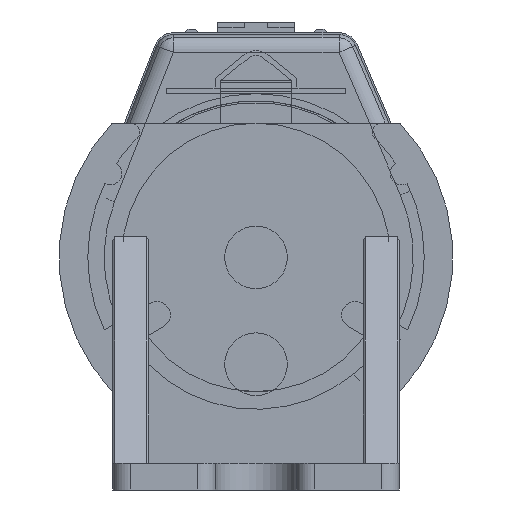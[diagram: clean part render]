
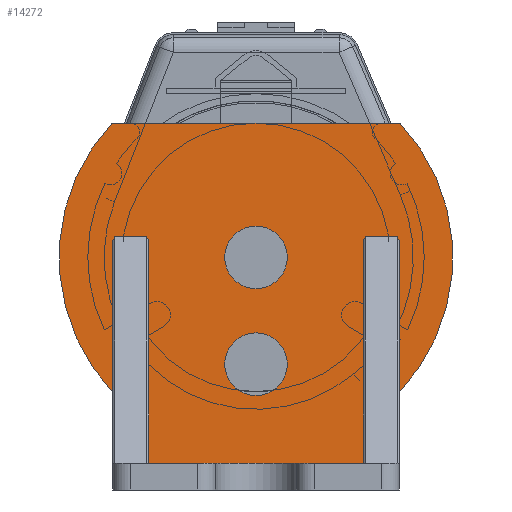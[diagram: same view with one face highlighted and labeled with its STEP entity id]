
A CAD part, left-side view. The second image highlights one B-rep face of the part: STEP entity #14272.
In plain terms, the highlighted planar face has unit normal (-1, 0, 0).
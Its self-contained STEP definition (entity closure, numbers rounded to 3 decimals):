
#3490=DIRECTION('',(0.,0.,-1.));
#3491=VECTOR('',#3490,8.494);
#3492=CARTESIAN_POINT('',(4.,-8.,13.944));
#3493=LINE('',#3492,#3491);
#3640=DIRECTION('',(0.,0.,1.));
#3641=VECTOR('',#3640,8.494);
#3642=CARTESIAN_POINT('',(4.,8.,5.45));
#3643=LINE('',#3642,#3641);
#3648=CARTESIAN_POINT('',(4.,-8.,13.944));
#3649=CARTESIAN_POINT('',(4.,-8.,14.044));
#3650=CARTESIAN_POINT('',(4.,-8.,14.144));
#3651=CARTESIAN_POINT('',(4.,-7.9,14.144));
#3653=DIRECTION('',(0.,1.,0.));
#3654=VECTOR('',#3653,1.8);
#3655=CARTESIAN_POINT('',(4.,-7.9,14.144));
#3656=LINE('',#3655,#3654);
#3657=CARTESIAN_POINT('',(4.,-6.1,14.144));
#3658=CARTESIAN_POINT('',(4.,-6.,14.144));
#3659=CARTESIAN_POINT('',(4.,-6.,14.044));
#3660=CARTESIAN_POINT('',(4.,-6.,13.944));
#3662=DIRECTION('',(0.,0.,-1.));
#3663=VECTOR('',#3662,12.444);
#3664=CARTESIAN_POINT('',(4.,-6.,13.944));
#3665=LINE('',#3664,#3663);
#3666=DIRECTION('',(0.,1.,0.));
#3667=VECTOR('',#3666,12.);
#3668=CARTESIAN_POINT('',(4.,-6.,1.5));
#3669=LINE('',#3668,#3667);
#3670=DIRECTION('',(0.,0.,1.));
#3671=VECTOR('',#3670,12.444);
#3672=CARTESIAN_POINT('',(4.,6.,1.5));
#3673=LINE('',#3672,#3671);
#3674=CARTESIAN_POINT('',(4.,6.,13.944));
#3675=CARTESIAN_POINT('',(4.,6.,14.044));
#3676=CARTESIAN_POINT('',(4.,6.,14.144));
#3677=CARTESIAN_POINT('',(4.,6.1,14.144));
#3679=DIRECTION('',(0.,1.,0.));
#3680=VECTOR('',#3679,1.8);
#3681=CARTESIAN_POINT('',(4.,6.1,14.144));
#3682=LINE('',#3681,#3680);
#3683=CARTESIAN_POINT('',(4.,7.9,14.144));
#3684=CARTESIAN_POINT('',(4.,8.,14.144));
#3685=CARTESIAN_POINT('',(4.,8.,14.044));
#3686=CARTESIAN_POINT('',(4.,8.,13.944));
#3688=CARTESIAN_POINT('',(4.,0.,13.));
#3689=DIRECTION('',(1.,0.,0.));
#3690=DIRECTION('',(0.,0.727,-0.686));
#3691=AXIS2_PLACEMENT_3D('',#3688,#3689,#3690);
#3693=DIRECTION('',(0.,-1.,0.));
#3694=VECTOR('',#3693,16.093);
#3695=CARTESIAN_POINT('',(4.,8.047,20.5));
#3696=LINE('',#3695,#3694);
#3697=CARTESIAN_POINT('',(4.,0.,13.));
#3698=DIRECTION('',(1.,0.,0.));
#3699=DIRECTION('',(0.,-0.732,0.682));
#3700=AXIS2_PLACEMENT_3D('',#3697,#3698,#3699);
#3702=CARTESIAN_POINT('',(4.,0.,7.03));
#3703=DIRECTION('',(-1.,0.,0.));
#3704=DIRECTION('',(0.,0.,1.));
#3705=AXIS2_PLACEMENT_3D('',#3702,#3703,#3704);
#3707=CARTESIAN_POINT('',(4.,0.,7.03));
#3708=DIRECTION('',(-1.,0.,0.));
#3709=DIRECTION('',(0.,0.,-1.));
#3710=AXIS2_PLACEMENT_3D('',#3707,#3708,#3709);
#3712=CARTESIAN_POINT('',(4.,0.,13.));
#3713=DIRECTION('',(-1.,0.,0.));
#3714=DIRECTION('',(0.,0.,1.));
#3715=AXIS2_PLACEMENT_3D('',#3712,#3713,#3714);
#3717=CARTESIAN_POINT('',(4.,0.,13.));
#3718=DIRECTION('',(-1.,0.,0.));
#3719=DIRECTION('',(0.,0.,-1.));
#3720=AXIS2_PLACEMENT_3D('',#3717,#3718,#3719);
#7975=CARTESIAN_POINT('',(4.,0.,8.78));
#7976=VERTEX_POINT('',#7975);
#7977=CARTESIAN_POINT('',(4.,0.,5.28));
#7978=VERTEX_POINT('',#7977);
#8077=CARTESIAN_POINT('',(4.,-8.047,20.5));
#8078=VERTEX_POINT('',#8077);
#8079=CARTESIAN_POINT('',(4.,8.047,20.5));
#8080=VERTEX_POINT('',#8079);
#8081=CARTESIAN_POINT('',(4.,-8.,5.45));
#8082=VERTEX_POINT('',#8081);
#8084=CARTESIAN_POINT('',(4.,-8.,13.944));
#8086=VERTEX_POINT('',#8084);
#8092=CARTESIAN_POINT('',(4.,-7.9,14.144));
#8093=VERTEX_POINT('',#8092);
#8118=CARTESIAN_POINT('',(4.,6.,1.5));
#8119=VERTEX_POINT('',#8118);
#8120=CARTESIAN_POINT('',(4.,-6.,1.5));
#8121=VERTEX_POINT('',#8120);
#8143=CARTESIAN_POINT('',(4.,8.,13.944));
#8144=VERTEX_POINT('',#8143);
#8145=CARTESIAN_POINT('',(4.,8.,5.45));
#8146=VERTEX_POINT('',#8145);
#8147=VERTEX_POINT('',#3683);
#8148=CARTESIAN_POINT('',(4.,-6.1,14.144));
#8149=VERTEX_POINT('',#8148);
#8150=VERTEX_POINT('',#3660);
#8151=CARTESIAN_POINT('',(4.,6.,13.944));
#8152=VERTEX_POINT('',#8151);
#8153=VERTEX_POINT('',#3677);
#8154=CARTESIAN_POINT('',(4.,0.,14.75));
#8155=CARTESIAN_POINT('',(4.,0.,11.25));
#8156=VERTEX_POINT('',#8154);
#8157=VERTEX_POINT('',#8155);
#14232=CARTESIAN_POINT('',(4.,0.,13.));
#14233=DIRECTION('',(1.,0.,0.));
#14234=DIRECTION('',(0.,0.,-1.));
#14235=AXIS2_PLACEMENT_3D('',#14232,#14233,#14234);
#14236=PLANE('',#14235);
#14237=ORIENTED_EDGE('',*,*,#14062,.T.);
#14239=ORIENTED_EDGE('',*,*,#14238,.T.);
#14241=ORIENTED_EDGE('',*,*,#14240,.T.);
#14243=ORIENTED_EDGE('',*,*,#14242,.T.);
#14244=ORIENTED_EDGE('',*,*,#14110,.T.);
#14246=ORIENTED_EDGE('',*,*,#14245,.T.);
#14248=ORIENTED_EDGE('',*,*,#14247,.T.);
#14250=ORIENTED_EDGE('',*,*,#14249,.T.);
#14251=ORIENTED_EDGE('',*,*,#14218,.T.);
#14252=ORIENTED_EDGE('',*,*,#14199,.F.);
#14254=ORIENTED_EDGE('',*,*,#14253,.T.);
#14255=ORIENTED_EDGE('',*,*,#13970,.T.);
#14256=ORIENTED_EDGE('',*,*,#14013,.T.);
#14257=ORIENTED_EDGE('',*,*,#14033,.F.);
#14258=EDGE_LOOP('',(#14237,#14239,#14241,#14243,#14244,#14246,#14248,#14250,
#14251,#14252,#14254,#14255,#14256,#14257));
#14259=FACE_OUTER_BOUND('',#14258,.F.);
#14261=ORIENTED_EDGE('',*,*,#14260,.T.);
#14263=ORIENTED_EDGE('',*,*,#14262,.T.);
#14264=EDGE_LOOP('',(#14261,#14263));
#14265=FACE_BOUND('',#14264,.F.);
#14267=ORIENTED_EDGE('',*,*,#14266,.T.);
#14269=ORIENTED_EDGE('',*,*,#14268,.T.);
#14270=EDGE_LOOP('',(#14267,#14269));
#14271=FACE_BOUND('',#14270,.F.);
#3652=B_SPLINE_CURVE_WITH_KNOTS('',3,(#3648,#3649,#3650,#3651),.UNSPECIFIED.,
.F.,.F.,(4,4),(0.,1.),.UNSPECIFIED.);
#3661=B_SPLINE_CURVE_WITH_KNOTS('',3,(#3657,#3658,#3659,#3660),.UNSPECIFIED.,
.F.,.F.,(4,4),(0.,1.),.UNSPECIFIED.);
#3678=B_SPLINE_CURVE_WITH_KNOTS('',3,(#3674,#3675,#3676,#3677),.UNSPECIFIED.,
.F.,.F.,(4,4),(0.,1.),.UNSPECIFIED.);
#3687=B_SPLINE_CURVE_WITH_KNOTS('',3,(#3683,#3684,#3685,#3686),.UNSPECIFIED.,
.F.,.F.,(4,4),(0.,1.),.UNSPECIFIED.);
#3692=CIRCLE('',#3691,11.);
#3701=CIRCLE('',#3700,11.);
#3706=CIRCLE('',#3705,1.75);
#3711=CIRCLE('',#3710,1.75);
#3716=CIRCLE('',#3715,1.75);
#3721=CIRCLE('',#3720,1.75);
#13970=EDGE_CURVE('',#8080,#8078,#3696,.T.);
#14013=EDGE_CURVE('',#8078,#8082,#3701,.T.);
#14033=EDGE_CURVE('',#8086,#8082,#3493,.T.);
#14062=EDGE_CURVE('',#8086,#8093,#3652,.T.);
#14110=EDGE_CURVE('',#8121,#8119,#3669,.T.);
#14199=EDGE_CURVE('',#8146,#8144,#3643,.T.);
#14218=EDGE_CURVE('',#8147,#8144,#3687,.T.);
#14238=EDGE_CURVE('',#8093,#8149,#3656,.T.);
#14240=EDGE_CURVE('',#8149,#8150,#3661,.T.);
#14242=EDGE_CURVE('',#8150,#8121,#3665,.T.);
#14245=EDGE_CURVE('',#8119,#8152,#3673,.T.);
#14247=EDGE_CURVE('',#8152,#8153,#3678,.T.);
#14249=EDGE_CURVE('',#8153,#8147,#3682,.T.);
#14253=EDGE_CURVE('',#8146,#8080,#3692,.T.);
#14260=EDGE_CURVE('',#7976,#7978,#3706,.T.);
#14262=EDGE_CURVE('',#7978,#7976,#3711,.T.);
#14266=EDGE_CURVE('',#8156,#8157,#3716,.T.);
#14268=EDGE_CURVE('',#8157,#8156,#3721,.T.);
#14272=ADVANCED_FACE('',(#14259,#14265,#14271),#14236,.F.);
